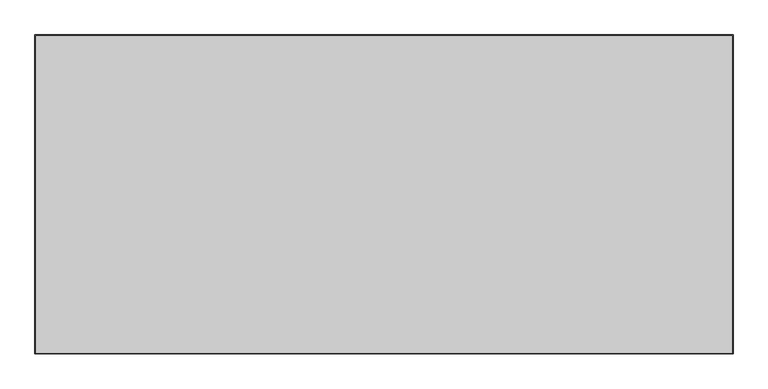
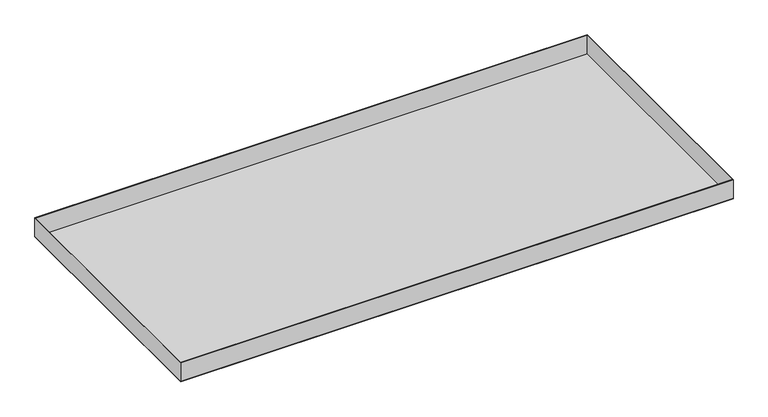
"""IFC4 building model written with IfcOpenShell, lengths in millimetres: proxy geometry, durlum_S5-100_RHOMBOS_panel : durlum_S5-100_RHOMBOS_panel_wall_width_cut."""

from ifc_helpers import new_model, si_unit, frame, origin, origin_with_axes, place, context, project, spatial, polyline, outline, extrude, source, transform, mapped, element, save


def generic_models_7700acbb(model_context):
    return source(origin(), model_context, "Body", "SweptSolid", [
        extrude(outline(polyline([(547.0, 249.75), (547.0, -249.75), (-547.0, -249.75), (-547.0, 249.75), (547.0, 249.75)]), holes=[polyline([(546.0, 248.75), (-546.0, 248.75), (-546.0, -248.75), (546.0, -248.75), (546.0, 248.75)])]), frame((0.0, 0.0, 1.0), z_axis=(0.0, 0.0, 1.0), x_axis=(1.0, 0.0, 0.0)), (0.0, 0.0, 1.0), 39.0),
        extrude(outline(polyline([(547.0, 249.75), (547.0, -249.75), (-547.0, -249.75), (-547.0, 249.75), (547.0, 249.75)])), origin_with_axes(), (0.0, 0.0, 1.0), 1.0),
    ])


if __name__ == "__main__":
    model = new_model("IFC4")
    model_context = context("Model", 3, world=origin())
    ifc_project = project(units=[si_unit("LENGTHUNIT", "METRE", prefix="MILLI")], contexts=[model_context])
    site = spatial("IfcSite", under=ifc_project)
    building = spatial("IfcBuilding", under=site)
    placement = place(None, origin())
    generic_models_shape = generic_models_7700acbb(model_context)
    element("IfcBuildingElementProxy", 1, Name="durlum_S5-100_RHOMBOS_panel : durlum_S5-100_RHOMBOS_panel_wall_width_cut", ObjectType="durlum_S5-100_RHOMBOS_panel : durlum_S5-100_RHOMBOS_panel_wall_width_cut", at=placement, inside=building, context=model_context, shape_type="MappedRepresentation", body=[
        mapped(generic_models_shape, transform((0.0, 0.0, 0.0), x_axis=(1.0, 0.0, 0.0), y_axis=(0.0, 1.0, 0.0), z_axis=(0.0, 0.0, 1.0))),
    ])
    save(model, "model.ifc")
